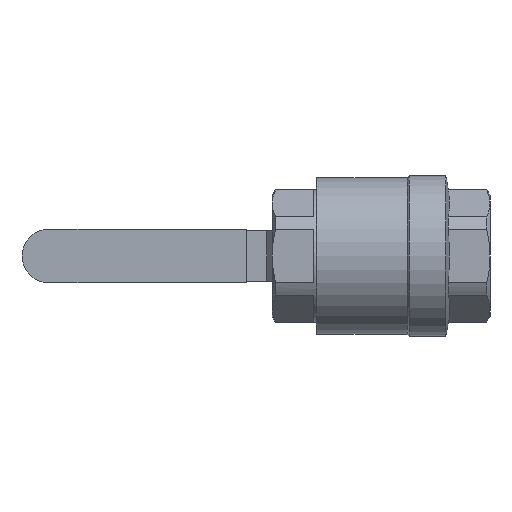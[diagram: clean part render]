
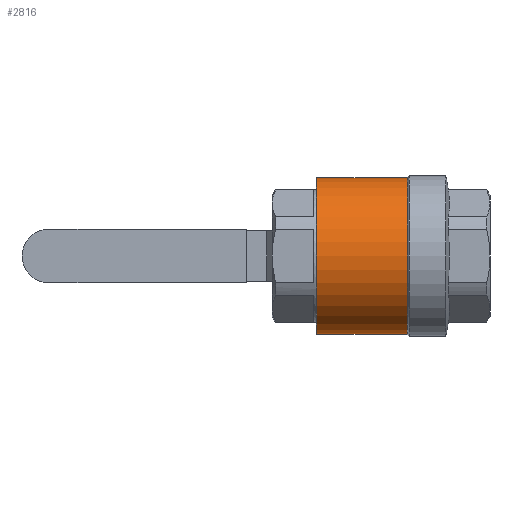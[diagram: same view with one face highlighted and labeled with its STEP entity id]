
A CAD part, front view. The second image highlights one B-rep face of the part: STEP entity #2816.
In plain terms, the highlighted cylindrical face has radius 55.5 mm (diameter 111 mm), a partial arc.
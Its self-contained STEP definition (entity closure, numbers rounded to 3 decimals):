
#117 = DIRECTION ( 'NONE',  ( -1., 0., 0. ) ) ;
#144 = VERTEX_POINT ( 'NONE', #2353 ) ;
#154 = ORIENTED_EDGE ( 'NONE', *, *, #738, .T. ) ;
#347 = VERTEX_POINT ( 'NONE', #962 ) ;
#373 = ORIENTED_EDGE ( 'NONE', *, *, #3826, .F. ) ;
#738 = EDGE_CURVE ( 'NONE', #2136, #144, #927, .T. ) ;
#827 = EDGE_CURVE ( 'NONE', #347, #2136, #4452, .T. ) ;
#899 = DIRECTION ( 'NONE',  ( -1., 0., 0. ) ) ;
#927 = LINE ( 'NONE', #1722, #4799 ) ;
#962 = CARTESIAN_POINT ( 'NONE',  ( 18.5, 0., -55.5 ) ) ;
#1035 = ORIENTED_EDGE ( 'NONE', *, *, #827, .T. ) ;
#1320 = DIRECTION ( 'NONE',  ( 0., 0., 1. ) ) ;
#1464 = CYLINDRICAL_SURFACE ( 'NONE', #3564, 55.5 ) ;
#1722 = CARTESIAN_POINT ( 'NONE',  ( -55.019, 0., 55.5 ) ) ;
#1839 = VERTEX_POINT ( 'NONE', #3364 ) ;
#1859 = ORIENTED_EDGE ( 'NONE', *, *, #2014, .F. ) ;
#2014 = EDGE_CURVE ( 'NONE', #1839, #144, #3426, .T. ) ;
#2015 = DIRECTION ( 'NONE',  ( -1., 0., 0. ) ) ;
#2048 = LINE ( 'NONE', #4246, #4267 ) ;
#2136 = VERTEX_POINT ( 'NONE', #3624 ) ;
#2142 = CARTESIAN_POINT ( 'NONE',  ( 18.5, 0., 0. ) ) ;
#2155 = AXIS2_PLACEMENT_3D ( 'NONE', #2387, #117, #2757 ) ;
#2353 = CARTESIAN_POINT ( 'NONE',  ( -45.5, 0., 55.5 ) ) ;
#2387 = CARTESIAN_POINT ( 'NONE',  ( -45.5, 0., 0. ) ) ;
#2527 = DIRECTION ( 'NONE',  ( 0., 0., 1. ) ) ;
#2540 = AXIS2_PLACEMENT_3D ( 'NONE', #2142, #4756, #2527 ) ;
#2757 = DIRECTION ( 'NONE',  ( 0., 0., 1. ) ) ;
#2816 = ADVANCED_FACE ( 'NONE', ( #3465 ), #1464, .T. ) ;
#2834 = DIRECTION ( 'NONE',  ( -1., 0., 0. ) ) ;
#3213 = CARTESIAN_POINT ( 'NONE',  ( -55.019, 0., 0. ) ) ;
#3364 = CARTESIAN_POINT ( 'NONE',  ( -45.5, 0., -55.5 ) ) ;
#3426 = CIRCLE ( 'NONE', #2155, 55.5 ) ;
#3439 = EDGE_LOOP ( 'NONE', ( #373, #1035, #154, #1859 ) ) ;
#3465 = FACE_OUTER_BOUND ( 'NONE', #3439, .T. ) ;
#3564 = AXIS2_PLACEMENT_3D ( 'NONE', #3213, #2834, #1320 ) ;
#3624 = CARTESIAN_POINT ( 'NONE',  ( 18.5, 0., 55.5 ) ) ;
#3826 = EDGE_CURVE ( 'NONE', #347, #1839, #2048, .T. ) ;
#4246 = CARTESIAN_POINT ( 'NONE',  ( -55.019, 0., -55.5 ) ) ;
#4267 = VECTOR ( 'NONE', #2015, 1000. ) ;
#4452 = CIRCLE ( 'NONE', #2540, 55.5 ) ;
#4756 = DIRECTION ( 'NONE',  ( -1., 0., 0. ) ) ;
#4799 = VECTOR ( 'NONE', #899, 1000. ) ;
